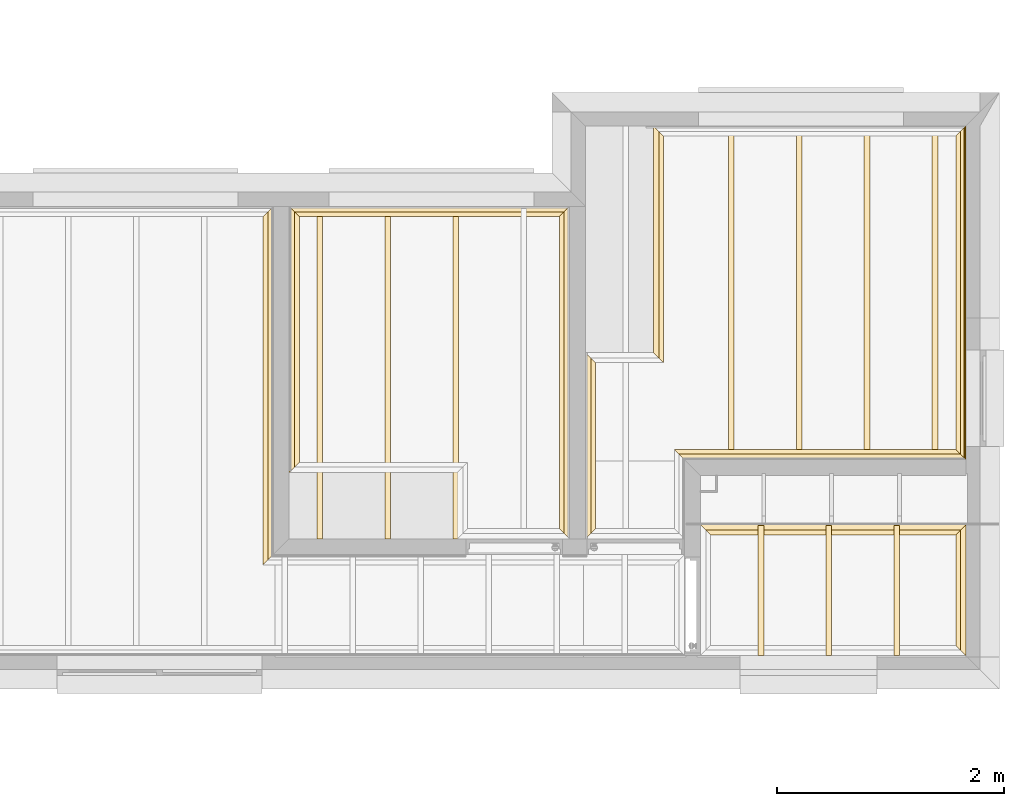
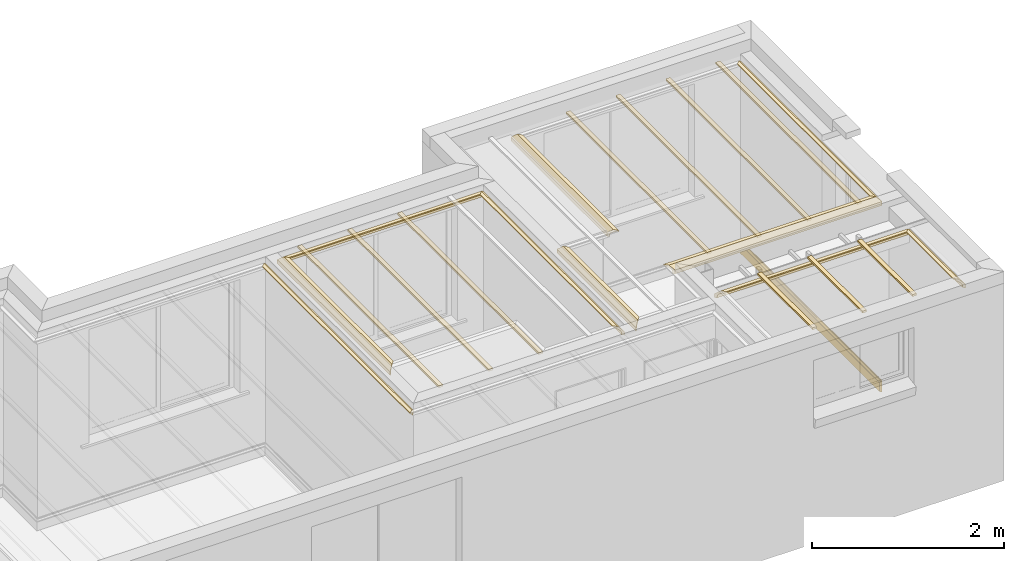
# One storey, part 12 of 15: 14 coverings.
"""IFC2X3 building model written with IfcOpenShell, lengths in millimetres."""

from ifc_helpers import new_model, entity, si_unit, converted_unit, money_unit, direction, frame, origin_with_axes, place, context, subcontext, project, spatial, faceted_brep, source, transform, mapped, material, type_object, element, save


model = new_model("IFC2X3")

# Units and contexts
model_context = context("Model", 3, precision=1e-05, world=origin_with_axes(), true_north=direction((0.0, 1.0)))
body_context = subcontext(model_context, "Body", "Model", "MODEL_VIEW")
ifc_project = project(units=[si_unit("LENGTHUNIT", "METRE", prefix="MILLI"), si_unit("AREAUNIT", "SQUARE_METRE"), si_unit("VOLUMEUNIT", "CUBIC_METRE"), converted_unit("PLANEANGLEUNIT", "DEGREE", entity("IfcPlaneAngleMeasure", 0.0174532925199), si_unit("PLANEANGLEUNIT", "RADIAN"), dimensions=[0, 0, 0, 0, 0, 0, 0]), si_unit("SOLIDANGLEUNIT", "STERADIAN"), money_unit("AUD"), si_unit("TIMEUNIT", "SECOND"), si_unit("MASSUNIT", "GRAM"), si_unit("THERMODYNAMICTEMPERATUREUNIT", "DEGREE_CELSIUS"), si_unit("LUMINOUSINTENSITYUNIT", "LUMEN")], contexts=[model_context])

# Site, building, storey
site_placement = place(None, origin_with_axes())
site = spatial("IfcSite", under=ifc_project, at=site_placement, Name="Lot 1. East Hills", CompositionType="ELEMENT")
building_placement = place(site_placement, origin_with_axes())
building = spatial("IfcBuilding", under=site, at=building_placement, Name="Proposed Units 7 & 8", CompositionType="ELEMENT")
storey_placement = place(building_placement, frame((0.0, 0.0, 3202.0), z_axis=(0.0, 0.0, 1.0), x_axis=(1.0, 0.0, 0.0)))
storey = spatial("IfcBuildingStorey", under=building, at=storey_placement, Name="Ground", CompositionType="ELEMENT", Elevation=3202.0)

# Coverings
ifc_material = material(Name="50 %")
covering_type_1 = type_object("IfcCoveringType", Name="CEILING BATTEN", PredefinedType="NOTDEFINED")
shared_shape_1 = source(origin_with_axes(), body_context, "Body", "Brep", [
    faceted_brep([(0.0, 0.0, 0.0), (0.0, 0.0, 25.0), (-2935.00000134, 0.0, 25.0), (-2935.00000134, 0.0, 0.0), (0.0, 50.0, 0.0), (0.0, 50.0, 25.0), (-2935.00000134, 50.0, 25.0), (-2935.00000134, 50.0, 0.0)], [[[0, 1, 2, 3]], [[4, 5, 1, 0]], [[1, 5, 6, 2]], [[3, 2, 6, 7]], [[0, 3, 7, 4]], [[7, 6, 5, 4]]]),
    faceted_brep([(0.0, 600.0, 0.0), (0.0, 600.0, 25.0), (-2935.00000134, 600.0, 25.0), (-2935.00000134, 600.0, 0.0), (0.0, 650.0, 0.0), (0.0, 650.0, 25.0), (-2935.00000134, 650.0, 25.0), (-2935.00000134, 650.0, 0.0)], [[[0, 1, 2, 3]], [[4, 5, 1, 0]], [[1, 5, 6, 2]], [[3, 2, 6, 7]], [[0, 3, 7, 4]], [[7, 6, 5, 4]]]),
    faceted_brep([(0.0, 1200.0, 0.0), (0.0, 1200.0, 25.0), (-2935.00000134, 1200.0, 25.0), (-2935.00000134, 1200.0, 0.0), (0.0, 1250.0, 0.0), (0.0, 1250.0, 25.0), (-2935.00000134, 1250.0, 25.0), (-2935.00000134, 1250.0, 0.0)], [[[0, 1, 2, 3]], [[4, 5, 1, 0]], [[1, 5, 6, 2]], [[3, 2, 6, 7]], [[0, 3, 7, 4]], [[7, 6, 5, 4]]]),
])
covering_1_placement = place(storey_placement, frame((11056.4701329, 4258.00000119, 2482.0), z_axis=(0.0, 0.0, 1.0), x_axis=(0.0, 1.0, 0.0)))
element("IfcCovering", 1, at=covering_1_placement, inside=storey, type_object=covering_type_1, material=ifc_material, Name="CEL-WALL-G07 - CEILING BATTEN - object -", PredefinedType="CEILING", context=body_context, shape_type="MappedRepresentation", body=[
    mapped(shared_shape_1, transform((0.0, 0.0, 0.0))),
])
shared_shape_2 = source(origin_with_axes(), body_context, "Body", "Brep", [
    faceted_brep([(0.0, 0.0, 0.0), (0.0, 0.0, 25.0), (-2945.00000246, 0.0, 25.0), (-2945.00000246, 0.0, 0.0), (0.0, 50.0, 0.0), (0.0, 50.0, 25.0), (-2945.00000246, 50.0, 25.0), (-2945.00000246, 50.0, 0.0)], [[[0, 1, 2, 3]], [[4, 5, 1, 0]], [[1, 5, 6, 2]], [[3, 2, 6, 7]], [[0, 3, 7, 4]], [[7, 6, 5, 4]]]),
    faceted_brep([(0.0, 600.0, 0.0), (0.0, 600.0, 25.0), (-2945.00000246, 600.0, 25.0), (-2945.00000246, 600.0, 0.0), (0.0, 650.0, 0.0), (0.0, 650.0, 25.0), (-2945.00000246, 650.0, 25.0), (-2945.00000246, 650.0, 0.0)], [[[0, 1, 2, 3]], [[4, 5, 1, 0]], [[1, 5, 6, 2]], [[3, 2, 6, 7]], [[0, 3, 7, 4]], [[7, 6, 5, 4]]]),
    faceted_brep([(0.0, 1200.0, 0.0), (0.0, 1200.0, 25.0), (-2945.00000246, 1200.0, 25.0), (-2945.00000246, 1200.0, 0.0), (0.0, 1250.0, 0.0), (0.0, 1250.0, 25.0), (-2945.00000246, 1250.0, 25.0), (-2945.00000246, 1250.0, 0.0)], [[[0, 1, 2, 3]], [[4, 5, 1, 0]], [[1, 5, 6, 2]], [[3, 2, 6, 7]], [[0, 3, 7, 4]], [[7, 6, 5, 4]]]),
    faceted_brep([(0.0, 1800.0, 0.0), (0.0, 1800.0, 25.0), (-2945.00000246, 1800.0, 25.0), (-2945.00000246, 1800.0, 0.0), (0.0, 1850.0, 0.0), (0.0, 1850.0, 25.0), (-2945.00000246, 1850.0, 25.0), (-2945.00000246, 1850.0, 0.0)], [[[0, 1, 2, 3]], [[4, 5, 1, 0]], [[1, 5, 6, 2]], [[3, 2, 6, 7]], [[0, 3, 7, 4]], [[7, 6, 5, 4]]]),
])
covering_2_placement = place(storey_placement, frame((15286.8495404, 4968.00000119, 2482.0), z_axis=(0.0, 0.0, 1.0), x_axis=(0.0, 1.0, 0.0)))
element("IfcCovering", 2, at=covering_2_placement, inside=storey, type_object=covering_type_1, material=ifc_material, Name="CEL-WALL-G01 - CEILING BATTEN - object -", PredefinedType="CEILING", context=body_context, shape_type="MappedRepresentation", body=[
    mapped(shared_shape_2, transform((0.0, 0.0, 0.0))),
])
covering_type_2 = type_object("IfcCoveringType", Name="Molding Straight 12", PredefinedType="NOTDEFINED")
shared_shape_3 = source(origin_with_axes(), body_context, "Body", "Brep", [
    faceted_brep([(-2000.0, 0.0, -97.7142857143), (0.0, 0.0, -97.7142857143), (-20.5714285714, -20.5714285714, -97.7142857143), (-2020.57142857, -20.5714285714, -97.7142857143), (-2000.0, 0.0, -48.8571428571), (0.0, 0.0, -48.8571428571), (-48.8571428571, -48.8571428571, 0.0), (-90.0, -90.0, 0.0), (-90.0, -90.0, -12.8571428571), (-74.5714285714, -74.5714285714, -12.8571428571), (-74.5714285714, -74.5714285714, -25.7142857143), (-60.5952001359, -60.5952001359, -27.5542910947), (-47.5714285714, -47.5714285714, -32.9489139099), (-36.3876623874, -36.3876623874, -41.5305195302), (-27.8060567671, -27.8060567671, -52.7142857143), (-22.4114339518, -22.4114339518, -65.7380572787), (-20.5714285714, -20.5714285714, -79.7142857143), (-2020.57142857, -20.5714285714, -79.7142857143), (-2022.41143395, -22.4114339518, -65.7380572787), (-2027.80605677, -27.8060567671, -52.7142857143), (-2036.38766239, -36.3876623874, -41.5305195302), (-2047.57142857, -47.5714285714, -32.9489139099), (-2060.59520014, -60.5952001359, -27.5542910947), (-2074.57142857, -74.5714285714, -25.7142857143), (-2074.57142857, -74.5714285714, -12.8571428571), (-2090.0, -90.0, -12.8571428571), (-2090.0, -90.0, 0.0), (-2048.85714286, -48.8571428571, 0.0)], [[[0, 1, 2, 3]], [[4, 5, 1, 0]], [[1, 5, 6, 7, 8, 9, 10, 11, 12, 13, 14, 15, 16, 2]], [[3, 2, 16, 17]], [[0, 3, 17, 18, 19, 20, 21, 22, 23, 24, 25, 26, 27, 4]], [[27, 6, 5, 4]], [[26, 7, 6, 27]], [[25, 8, 7, 26]], [[24, 9, 8, 25]], [[23, 10, 9, 24]], [[22, 11, 10, 23]], [[21, 12, 11, 22]], [[20, 13, 12, 21]], [[19, 14, 13, 20]], [[18, 15, 14, 19]], [[17, 16, 15, 18]]]),
])
covering_3_placement = place(storey_placement, frame((12775.6569845, 4968.00000119, 2469.0), z_axis=(0.0, 0.0, 1.0), x_axis=(0.0, 1.0, 0.0)))
element("IfcCovering", 3, at=covering_3_placement, inside=storey, type_object=covering_type_2, material=ifc_material, Name="CEL-MOD-G26 - Molding Straight 12 - object -", PredefinedType="NOTDEFINED", context=body_context, shape_type="MappedRepresentation", body=[
    mapped(shared_shape_3, transform((0.0, 0.0, 0.0))),
])
shared_shape_4 = source(origin_with_axes(), body_context, "Body", "Brep", [
    faceted_brep([(2935.00000134, 0.0, -97.7142857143), (2914.42857277, -20.5714285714, -97.7142857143), (20.5714285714, -20.5714285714, -97.7142857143), (0.0, 0.0, -97.7142857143), (2935.00000134, 0.0, -48.8571428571), (2886.14285848, -48.8571428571, 0.0), (2845.00000134, -90.0, 0.0), (2845.00000134, -90.0, -12.8571428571), (2860.42857277, -74.5714285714, -12.8571428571), (2860.42857277, -74.5714285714, -25.7142857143), (2874.40480121, -60.5952001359, -27.5542910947), (2887.42857277, -47.5714285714, -32.9489139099), (2898.61233895, -36.3876623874, -41.5305195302), (2907.19394457, -27.8060567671, -52.7142857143), (2912.58856739, -22.4114339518, -65.7380572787), (2914.42857277, -20.5714285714, -79.7142857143), (20.5714285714, -20.5714285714, -79.7142857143), (22.4114339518, -22.4114339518, -65.7380572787), (27.8060567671, -27.8060567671, -52.7142857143), (36.3876623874, -36.3876623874, -41.5305195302), (47.5714285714, -47.5714285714, -32.9489139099), (60.5952001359, -60.5952001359, -27.5542910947), (74.5714285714, -74.5714285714, -25.7142857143), (74.5714285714, -74.5714285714, -12.8571428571), (90.0, -90.0, -12.8571428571), (90.0, -90.0, 0.0), (48.8571428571, -48.8571428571, 0.0), (0.0, 0.0, -48.8571428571)], [[[0, 1, 2, 3]], [[0, 4, 5, 6, 7, 8, 9, 10, 11, 12, 13, 14, 15, 1]], [[1, 15, 16, 2]], [[3, 2, 16, 17, 18, 19, 20, 21, 22, 23, 24, 25, 26, 27]], [[4, 0, 3, 27]], [[5, 4, 27, 26]], [[6, 5, 26, 25]], [[7, 6, 25, 24]], [[8, 7, 24, 23]], [[9, 8, 23, 22]], [[10, 9, 22, 21]], [[11, 10, 21, 20]], [[12, 11, 20, 19]], [[13, 12, 19, 18]], [[14, 13, 18, 17]], [[15, 14, 17, 16]]]),
])
covering_4_placement = place(storey_placement, frame((12035.0000001, 4258.00000119, 2469.0), z_axis=(0.0, 0.0, 1.0), x_axis=(0.0, -1.0, 0.0)))
element("IfcCovering", 4, at=covering_4_placement, inside=storey, type_object=covering_type_2, material=ifc_material, Name="CEL-MOD-G24 - Molding Straight 12 - object -", PredefinedType="NOTDEFINED", context=body_context, shape_type="MappedRepresentation", body=[
    mapped(shared_shape_4, transform((0.0, 0.0, 0.0))),
])
shared_shape_5 = source(origin_with_axes(), body_context, "Body", "Brep", [
    faceted_brep([(-2475.00000112, 0.0, -97.7142857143), (0.0, 0.0, -97.7142857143), (-20.5714285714, -20.5714285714, -97.7142857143), (-2454.42857255, -20.5714285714, -97.7142857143), (-2475.00000112, 0.0, -48.8571428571), (0.0, 0.0, -48.8571428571), (-48.8571428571, -48.8571428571, 0.0), (-90.0, -90.0, 0.0), (-90.0, -90.0, -12.8571428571), (-74.5714285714, -74.5714285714, -12.8571428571), (-74.5714285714, -74.5714285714, -25.7142857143), (-60.5952001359, -60.5952001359, -27.5542910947), (-47.5714285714, -47.5714285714, -32.9489139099), (-36.3876623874, -36.3876623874, -41.5305195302), (-27.8060567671, -27.8060567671, -52.7142857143), (-22.4114339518, -22.4114339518, -65.7380572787), (-20.5714285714, -20.5714285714, -79.7142857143), (-2454.42857255, -20.5714285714, -79.7142857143), (-2452.58856717, -22.4114339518, -65.7380572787), (-2447.19394435, -27.8060567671, -52.7142857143), (-2438.61233873, -36.3876623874, -41.5305195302), (-2427.42857255, -47.5714285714, -32.9489139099), (-2414.40480098, -60.5952001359, -27.5542910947), (-2400.42857255, -74.5714285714, -25.7142857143), (-2400.42857255, -74.5714285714, -12.8571428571), (-2385.00000112, -90.0, -12.8571428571), (-2385.00000112, -90.0, 0.0), (-2426.14285826, -48.8571428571, 0.0)], [[[0, 1, 2, 3]], [[4, 5, 1, 0]], [[1, 5, 6, 7, 8, 9, 10, 11, 12, 13, 14, 15, 16, 2]], [[3, 2, 16, 17]], [[0, 3, 17, 18, 19, 20, 21, 22, 23, 24, 25, 26, 27, 4]], [[27, 6, 5, 4]], [[26, 7, 6, 27]], [[25, 8, 7, 26]], [[24, 9, 8, 25]], [[23, 10, 9, 24]], [[22, 11, 10, 23]], [[21, 12, 11, 22]], [[20, 13, 12, 21]], [[19, 14, 13, 20]], [[18, 15, 14, 19]], [[17, 16, 15, 18]]]),
])
covering_5_placement = place(storey_placement, frame((12035.0000001, 4258.00000119, 2469.0), z_axis=(0.0, 0.0, 1.0), x_axis=(1.0, 0.0, 0.0)))
element("IfcCovering", 5, at=covering_5_placement, inside=storey, type_object=covering_type_2, material=ifc_material, Name="CEL-MOD-G22 - Molding Straight 12 - object -", PredefinedType="NOTDEFINED", context=body_context, shape_type="MappedRepresentation", body=[
    mapped(shared_shape_5, transform((0.0, 0.0, 0.0))),
])
shared_shape_6 = source(origin_with_axes(), body_context, "Body", "Brep", [
    faceted_brep([(1154.99948048, 0.0, -97.7142857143), (1134.42805191, -20.5714285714, -97.7142857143), (20.5714285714, -20.5714285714, -97.7142857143), (0.0, 0.0, -97.7142857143), (1154.99948048, 0.0, -48.8571428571), (1106.14233763, -48.8571428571, 0.0), (1064.99948048, -90.0, 0.0), (1064.99948048, -90.0, -12.8571428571), (1080.42805191, -74.5714285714, -12.8571428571), (1080.42805191, -74.5714285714, -25.7142857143), (1094.40428035, -60.5952001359, -27.5542910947), (1107.42805191, -47.5714285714, -32.9489139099), (1118.6118181, -36.3876623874, -41.5305195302), (1127.19342372, -27.8060567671, -52.7142857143), (1132.58804653, -22.4114339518, -65.7380572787), (1134.42805191, -20.5714285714, -79.7142857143), (20.5714285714, -20.5714285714, -79.7142857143), (22.4114339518, -22.4114339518, -65.7380572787), (27.8060567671, -27.8060567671, -52.7142857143), (36.3876623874, -36.3876623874, -41.5305195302), (47.5714285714, -47.5714285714, -32.9489139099), (60.5952001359, -60.5952001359, -27.5542910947), (74.5714285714, -74.5714285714, -25.7142857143), (74.5714285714, -74.5714285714, -12.8571428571), (90.0, -90.0, -12.8571428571), (90.0, -90.0, 0.0), (48.8571428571, -48.8571428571, 0.0), (0.0, 0.0, -48.8571428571)], [[[0, 1, 2, 3]], [[0, 4, 5, 6, 7, 8, 9, 10, 11, 12, 13, 14, 15, 1]], [[1, 15, 16, 2]], [[3, 2, 16, 17, 18, 19, 20, 21, 22, 23, 24, 25, 26, 27]], [[4, 0, 3, 27]], [[5, 4, 27, 26]], [[6, 5, 26, 25]], [[7, 6, 25, 24]], [[8, 7, 24, 23]], [[9, 8, 23, 22]], [[10, 9, 22, 21]], [[11, 10, 21, 20]], [[12, 11, 20, 19]], [[13, 12, 19, 18]], [[14, 13, 18, 17]], [[15, 14, 17, 16]]]),
])
covering_6_placement = place(storey_placement, frame((15535.0000012, 1447.99947929, 2469.0), z_axis=(0.0, 0.0, 1.0), x_axis=(0.0, -1.0, 0.0)))
element("IfcCovering", 6, at=covering_6_placement, inside=storey, type_object=covering_type_2, material=ifc_material, Name="CEL-MOD-G21 - Molding Straight 12 - object -", PredefinedType="NOTDEFINED", context=body_context, shape_type="MappedRepresentation", body=[
    mapped(shared_shape_6, transform((0.0, 0.0, 0.0))),
])
shared_shape_7 = source(origin_with_axes(), body_context, "Body", "Brep", [
    faceted_brep([(-2344.99999999, 0.0, -97.7142857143), (0.0, 0.0, -97.7142857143), (-20.5714285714, -20.5714285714, -97.7142857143), (-2324.42857142, -20.5714285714, -97.7142857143), (-2344.99999999, 0.0, -48.8571428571), (0.0, 0.0, -48.8571428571), (-48.8571428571, -48.8571428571, 0.0), (-90.0, -90.0, 0.0), (-90.0, -90.0, -12.8571428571), (-74.5714285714, -74.5714285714, -12.8571428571), (-74.5714285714, -74.5714285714, -25.7142857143), (-60.5952001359, -60.5952001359, -27.5542910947), (-47.5714285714, -47.5714285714, -32.9489139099), (-36.3876623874, -36.3876623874, -41.5305195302), (-27.8060567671, -27.8060567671, -52.7142857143), (-22.4114339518, -22.4114339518, -65.7380572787), (-20.5714285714, -20.5714285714, -79.7142857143), (-2324.42857142, -20.5714285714, -79.7142857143), (-2322.58856604, -22.4114339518, -65.7380572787), (-2317.19394323, -27.8060567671, -52.7142857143), (-2308.61233761, -36.3876623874, -41.5305195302), (-2297.42857142, -47.5714285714, -32.9489139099), (-2284.40479986, -60.5952001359, -27.5542910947), (-2270.42857142, -74.5714285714, -25.7142857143), (-2270.42857142, -74.5714285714, -12.8571428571), (-2254.99999999, -90.0, -12.8571428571), (-2254.99999999, -90.0, 0.0), (-2296.14285714, -48.8571428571, 0.0)], [[[0, 1, 2, 3]], [[4, 5, 1, 0]], [[1, 5, 6, 7, 8, 9, 10, 11, 12, 13, 14, 15, 16, 2]], [[3, 2, 16, 17]], [[0, 3, 17, 18, 19, 20, 21, 22, 23, 24, 25, 26, 27, 4]], [[27, 6, 5, 4]], [[26, 7, 6, 27]], [[25, 8, 7, 26]], [[24, 9, 8, 25]], [[23, 10, 9, 24]], [[22, 11, 10, 23]], [[21, 12, 11, 22]], [[20, 13, 12, 21]], [[19, 14, 13, 20]], [[18, 15, 14, 19]], [[17, 16, 15, 18]]]),
])
covering_7_placement = place(storey_placement, frame((15535.0000012, 1447.99947929, 2469.0), z_axis=(0.0, 0.0, 1.0), x_axis=(1.0, 0.0, 0.0)))
element("IfcCovering", 7, at=covering_7_placement, inside=storey, type_object=covering_type_2, material=ifc_material, Name="CEL-MOD-G19 - Molding Straight 12 - object -", PredefinedType="NOTDEFINED", context=body_context, shape_type="MappedRepresentation", body=[
    mapped(shared_shape_7, transform((0.0, 0.0, 0.0))),
])
shared_shape_8 = source(origin_with_axes(), body_context, "Body", "Brep", [
    faceted_brep([(-2349.34301628, 0.0, -97.7142857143), (0.0, 0.0, -97.7142857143), (-20.5714285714, -20.5714285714, -97.7142857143), (-2328.77158771, -20.5714285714, -97.7142857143), (-2349.34301628, 0.0, -48.8571428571), (0.0, 0.0, -48.8571428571), (-48.8571428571, -48.8571428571, 0.0), (-90.0, -90.0, 0.0), (-90.0, -90.0, -12.8571428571), (-74.5714285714, -74.5714285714, -12.8571428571), (-74.5714285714, -74.5714285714, -25.7142857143), (-60.5952001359, -60.5952001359, -27.5542910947), (-47.5714285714, -47.5714285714, -32.9489139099), (-36.3876623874, -36.3876623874, -41.5305195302), (-27.8060567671, -27.8060567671, -52.7142857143), (-22.4114339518, -22.4114339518, -65.7380572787), (-20.5714285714, -20.5714285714, -79.7142857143), (-2328.77158771, -20.5714285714, -79.7142857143), (-2326.93158233, -22.4114339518, -65.7380572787), (-2321.53695951, -27.8060567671, -52.7142857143), (-2312.95535389, -36.3876623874, -41.5305195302), (-2301.77158771, -47.5714285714, -32.9489139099), (-2288.74781615, -60.5952001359, -27.5542910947), (-2274.77158771, -74.5714285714, -25.7142857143), (-2274.77158771, -74.5714285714, -12.8571428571), (-2259.34301628, -90.0, -12.8571428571), (-2259.34301628, -90.0, 0.0), (-2300.48587342, -48.8571428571, 0.0)], [[[0, 1, 2, 3]], [[4, 5, 1, 0]], [[1, 5, 6, 7, 8, 9, 10, 11, 12, 13, 14, 15, 16, 2]], [[3, 2, 16, 17]], [[0, 3, 17, 18, 19, 20, 21, 22, 23, 24, 25, 26, 27, 4]], [[27, 6, 5, 4]], [[26, 7, 6, 27]], [[25, 8, 7, 26]], [[24, 9, 8, 25]], [[23, 10, 9, 24]], [[22, 11, 10, 23]], [[21, 12, 11, 22]], [[20, 13, 12, 21]], [[19, 14, 13, 20]], [[18, 15, 14, 19]], [[17, 16, 15, 18]]]),
])
covering_8_placement = place(storey_placement, frame((9559.99999896, 4258.00000119, 2469.0), z_axis=(0.0, 0.0, 1.0), x_axis=(0.0, 1.0, 0.0)))
element("IfcCovering", 8, at=covering_8_placement, inside=storey, type_object=covering_type_2, material=ifc_material, Name="CEL-MOD-G18 - Molding Straight 12 - object -", PredefinedType="NOTDEFINED", context=body_context, shape_type="MappedRepresentation", body=[
    mapped(shared_shape_8, transform((0.0, 0.0, 0.0))),
])
shared_shape_9 = source(origin_with_axes(), body_context, "Body", "Brep", [
    faceted_brep([(3075.00000075, 0.0, -97.7142857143), (3095.57142932, -20.5714285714, -97.7142857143), (20.5714285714, -20.5714285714, -97.7142857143), (0.0, 0.0, -97.7142857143), (3075.00000075, 0.0, -48.8571428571), (3123.8571436, -48.8571428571, 0.0), (3165.00000075, -90.0, 0.0), (3165.00000075, -90.0, -12.8571428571), (3149.57142932, -74.5714285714, -12.8571428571), (3149.57142932, -74.5714285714, -25.7142857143), (3135.59520088, -60.5952001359, -27.5542910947), (3122.57142932, -47.5714285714, -32.9489139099), (3111.38766313, -36.3876623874, -41.5305195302), (3102.80605751, -27.8060567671, -52.7142857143), (3097.4114347, -22.4114339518, -65.7380572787), (3095.57142932, -20.5714285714, -79.7142857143), (20.5714285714, -20.5714285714, -79.7142857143), (22.4114339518, -22.4114339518, -65.7380572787), (27.8060567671, -27.8060567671, -52.7142857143), (36.3876623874, -36.3876623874, -41.5305195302), (47.5714285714, -47.5714285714, -32.9489139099), (60.5952001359, -60.5952001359, -27.5542910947), (74.5714285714, -74.5714285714, -25.7142857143), (74.5714285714, -74.5714285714, -12.8571428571), (90.0, -90.0, -12.8571428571), (90.0, -90.0, 0.0), (48.8571428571, -48.8571428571, 0.0), (0.0, 0.0, -48.8571428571)], [[[0, 1, 2, 3]], [[0, 4, 5, 6, 7, 8, 9, 10, 11, 12, 13, 14, 15, 1]], [[1, 15, 16, 2]], [[3, 2, 16, 17, 18, 19, 20, 21, 22, 23, 24, 25, 26, 27]], [[4, 0, 3, 27]], [[5, 4, 27, 26]], [[6, 5, 26, 25]], [[7, 6, 25, 24]], [[8, 7, 24, 23]], [[9, 8, 23, 22]], [[10, 9, 22, 21]], [[11, 10, 21, 20]], [[12, 11, 20, 19]], [[13, 12, 19, 18]], [[14, 13, 18, 17]], [[15, 14, 17, 16]]]),
])
covering_9_placement = place(storey_placement, frame((9419.99999955, 4258.00000119, 2469.0), z_axis=(0.0, 0.0, 1.0), x_axis=(0.0, -1.0, 0.0)))
element("IfcCovering", 9, at=covering_9_placement, inside=storey, type_object=covering_type_2, material=ifc_material, Name="U2_HANDBASIN - Molding Straight 12 - object -", PredefinedType="NOTDEFINED", context=body_context, shape_type="MappedRepresentation", body=[
    mapped(shared_shape_9, transform((0.0, 0.0, 0.0))),
])
shared_shape_10 = source(origin_with_axes(), body_context, "Body", "Brep", [
    faceted_brep([(2945.00000246, 0.0, -97.7142857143), (2924.42857389, -20.5714285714, -97.7142857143), (20.5714285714, -20.5714285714, -97.7142857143), (0.0, 0.0, -97.7142857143), (2945.00000246, 0.0, -48.8571428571), (2896.1428596, -48.8571428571, 0.0), (2855.00000246, -90.0, 0.0), (2855.00000246, -90.0, -12.8571428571), (2870.42857389, -74.5714285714, -12.8571428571), (2870.42857389, -74.5714285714, -25.7142857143), (2884.40480232, -60.5952001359, -27.5542910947), (2897.42857389, -47.5714285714, -32.9489139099), (2908.61234007, -36.3876623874, -41.5305195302), (2917.19394569, -27.8060567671, -52.7142857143), (2922.58856851, -22.4114339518, -65.7380572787), (2924.42857389, -20.5714285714, -79.7142857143), (20.5714285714, -20.5714285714, -79.7142857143), (22.4114339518, -22.4114339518, -65.7380572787), (27.8060567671, -27.8060567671, -52.7142857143), (36.3876623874, -36.3876623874, -41.5305195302), (47.5714285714, -47.5714285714, -32.9489139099), (60.5952001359, -60.5952001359, -27.5542910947), (74.5714285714, -74.5714285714, -25.7142857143), (74.5714285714, -74.5714285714, -12.8571428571), (90.0, -90.0, -12.8571428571), (90.0, -90.0, 0.0), (48.8571428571, -48.8571428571, 0.0), (0.0, 0.0, -48.8571428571)], [[[0, 1, 2, 3]], [[0, 4, 5, 6, 7, 8, 9, 10, 11, 12, 13, 14, 15, 1]], [[1, 15, 16, 2]], [[3, 2, 16, 17, 18, 19, 20, 21, 22, 23, 24, 25, 26, 27]], [[4, 0, 3, 27]], [[5, 4, 27, 26]], [[6, 5, 26, 25]], [[7, 6, 25, 24]], [[8, 7, 24, 23]], [[9, 8, 23, 22]], [[10, 9, 22, 21]], [[11, 10, 21, 20]], [[12, 11, 20, 19]], [[13, 12, 19, 18]], [[14, 13, 18, 17]], [[15, 14, 17, 16]]]),
])
covering_10_placement = place(storey_placement, frame((15535.0000012, 4968.00000119, 2469.0), z_axis=(0.0, 0.0, 1.0), x_axis=(0.0, -1.0, 0.0)))
element("IfcCovering", 10, at=covering_10_placement, inside=storey, type_object=covering_type_2, material=ifc_material, Name="CEL-MOD-G06 - Molding Straight 12 - object -", PredefinedType="NOTDEFINED", context=body_context, shape_type="MappedRepresentation", body=[
    mapped(shared_shape_10, transform((0.0, 0.0, 0.0))),
])
shared_shape_11 = source(origin_with_axes(), body_context, "Body", "Brep", [
    faceted_brep([(2485.00000008, 0.0, -97.7142857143), (2505.57142865, -20.5714285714, -97.7142857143), (20.5714285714, -20.5714285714, -97.7142857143), (0.0, 0.0, -97.7142857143), (2485.00000008, 0.0, -48.8571428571), (2533.85714293, -48.8571428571, 0.0), (2575.00000008, -90.0, 0.0), (2575.00000008, -90.0, -12.8571428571), (2559.57142865, -74.5714285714, -12.8571428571), (2559.57142865, -74.5714285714, -25.7142857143), (2545.59520021, -60.5952001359, -27.5542910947), (2532.57142865, -47.5714285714, -32.9489139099), (2521.38766246, -36.3876623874, -41.5305195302), (2512.80605684, -27.8060567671, -52.7142857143), (2507.41143403, -22.4114339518, -65.7380572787), (2505.57142865, -20.5714285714, -79.7142857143), (20.5714285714, -20.5714285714, -79.7142857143), (22.4114339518, -22.4114339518, -65.7380572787), (27.8060567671, -27.8060567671, -52.7142857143), (36.3876623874, -36.3876623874, -41.5305195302), (47.5714285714, -47.5714285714, -32.9489139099), (60.5952001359, -60.5952001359, -27.5542910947), (74.5714285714, -74.5714285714, -25.7142857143), (74.5714285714, -74.5714285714, -12.8571428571), (90.0, -90.0, -12.8571428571), (90.0, -90.0, 0.0), (48.8571428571, -48.8571428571, 0.0), (0.0, 0.0, -48.8571428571)], [[[0, 1, 2, 3]], [[0, 4, 5, 6, 7, 8, 9, 10, 11, 12, 13, 14, 15, 1]], [[1, 15, 16, 2]], [[3, 2, 16, 17, 18, 19, 20, 21, 22, 23, 24, 25, 26, 27]], [[4, 0, 3, 27]], [[5, 4, 27, 26]], [[6, 5, 26, 25]], [[7, 6, 25, 24]], [[8, 7, 24, 23]], [[9, 8, 23, 22]], [[10, 9, 22, 21]], [[11, 10, 21, 20]], [[12, 11, 20, 19]], [[13, 12, 19, 18]], [[14, 13, 18, 17]], [[15, 14, 17, 16]]]),
])
covering_11_placement = place(storey_placement, frame((15535.0000007, 2022.99999873, 2469.0), z_axis=(0.0, 0.0, 1.0), x_axis=(-1.0, 0.0, 0.0)))
element("IfcCovering", 11, at=covering_11_placement, inside=storey, type_object=covering_type_2, material=ifc_material, Name="CEL-MOD-G05 - Molding Straight 12 - object -", PredefinedType="NOTDEFINED", context=body_context, shape_type="MappedRepresentation", body=[
    mapped(shared_shape_11, transform((0.0, 0.0, 0.0))),
])
shared_shape_12 = source(origin_with_axes(), body_context, "Body", "Brep", [
    faceted_brep([(-1645.00000134, 0.0, -97.7142857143), (0.0, 0.0, -97.7142857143), (-20.5714285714, -20.5714285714, -97.7142857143), (-1624.42857277, -20.5714285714, -97.7142857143), (-1645.00000134, 0.0, -48.8571428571), (0.0, 0.0, -48.8571428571), (-48.8571428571, -48.8571428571, 0.0), (-90.0, -90.0, 0.0), (-90.0, -90.0, -12.8571428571), (-74.5714285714, -74.5714285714, -12.8571428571), (-74.5714285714, -74.5714285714, -25.7142857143), (-60.5952001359, -60.5952001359, -27.5542910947), (-47.5714285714, -47.5714285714, -32.9489139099), (-36.3876623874, -36.3876623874, -41.5305195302), (-27.8060567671, -27.8060567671, -52.7142857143), (-22.4114339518, -22.4114339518, -65.7380572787), (-20.5714285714, -20.5714285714, -79.7142857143), (-1624.42857277, -20.5714285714, -79.7142857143), (-1622.58856739, -22.4114339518, -65.7380572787), (-1617.19394457, -27.8060567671, -52.7142857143), (-1608.61233895, -36.3876623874, -41.5305195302), (-1597.42857277, -47.5714285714, -32.9489139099), (-1584.40480121, -60.5952001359, -27.5542910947), (-1570.42857277, -74.5714285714, -25.7142857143), (-1570.42857277, -74.5714285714, -12.8571428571), (-1555.00000134, -90.0, -12.8571428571), (-1555.00000134, -90.0, 0.0), (-1596.14285848, -48.8571428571, 0.0)], [[[0, 1, 2, 3]], [[4, 5, 1, 0]], [[1, 5, 6, 7, 8, 9, 10, 11, 12, 13, 14, 15, 16, 2]], [[3, 2, 16, 17]], [[0, 3, 17, 18, 19, 20, 21, 22, 23, 24, 25, 26, 27, 4]], [[27, 6, 5, 4]], [[26, 7, 6, 27]], [[25, 8, 7, 26]], [[24, 9, 8, 25]], [[23, 10, 9, 24]], [[22, 11, 10, 23]], [[21, 12, 11, 22]], [[20, 13, 12, 21]], [[19, 14, 13, 20]], [[18, 15, 14, 19]], [[17, 16, 15, 18]]]),
])
covering_12_placement = place(storey_placement, frame((12174.9999995, 2968.00000119, 2469.0), z_axis=(0.0, 0.0, 1.0), x_axis=(0.0, 1.0, 0.0)))
element("IfcCovering", 12, at=covering_12_placement, inside=storey, type_object=covering_type_2, material=ifc_material, Name="U2_HANDBASIN - Molding Straight 12 - object -", PredefinedType="NOTDEFINED", context=body_context, shape_type="MappedRepresentation", body=[
    mapped(shared_shape_12, transform((0.0, 0.0, 0.0))),
])
shared_shape_13 = source(origin_with_axes(), body_context, "Body", "Brep", [
    faceted_brep([(0.0, 0.0, 0.0), (0.0, 0.0, 25.0), (-1145.28934589, 0.0, 25.0), (-1145.28934589, 0.0, 0.0), (0.0, 50.0, 0.0), (0.0, 50.0, 25.0), (-1145.28934589, 50.0, 25.0), (-1145.28934589, 50.0, 0.0)], [[[0, 1, 2, 3]], [[4, 5, 1, 0]], [[1, 5, 6, 2]], [[3, 2, 6, 7]], [[0, 3, 7, 4]], [[7, 6, 5, 4]]]),
    faceted_brep([(0.0, 600.0, 0.0), (0.0, 600.0, 25.0), (-1145.28934589, 600.0, 25.0), (-1145.28934589, 600.0, 0.0), (0.0, 650.0, 0.0), (0.0, 650.0, 25.0), (-1145.28934589, 650.0, 25.0), (-1145.28934589, 650.0, 0.0)], [[[0, 1, 2, 3]], [[4, 5, 1, 0]], [[1, 5, 6, 2]], [[3, 2, 6, 7]], [[0, 3, 7, 4]], [[7, 6, 5, 4]]]),
    faceted_brep([(0.0, 1200.0, 0.0), (0.0, 1200.0, 25.0), (-1145.28934589, 1200.0, 25.0), (-1145.28934589, 1200.0, 0.0), (0.0, 1250.0, 0.0), (0.0, 1250.0, 25.0), (-1145.28934589, 1250.0, 25.0), (-1145.28934589, 1250.0, 0.0)], [[[0, 1, 2, 3]], [[4, 5, 1, 0]], [[1, 5, 6, 2]], [[3, 2, 6, 7]], [[0, 3, 7, 4]], [[7, 6, 5, 4]]]),
])
covering_13_placement = place(storey_placement, frame((14950.0000007, 1438.2893447, 2482.0), z_axis=(0.0, 0.0, 1.0), x_axis=(0.0, 1.0, 0.0)))
element("IfcCovering", 13, at=covering_13_placement, inside=storey, type_object=covering_type_1, material=ifc_material, Name="CEL-BAT-GR05 - CEILING BATTEN - object -", PredefinedType="CEILING", context=body_context, shape_type="MappedRepresentation", body=[
    mapped(shared_shape_13, transform((0.0, 0.0, 0.0))),
])
shared_shape_14 = source(origin_with_axes(), body_context, "Body", "Brep", [
    faceted_brep([(2925.9059766, -19.0298507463, -150.0), (2925.9059766, -19.0298507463, -40.2985074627), (18.9658913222, -19.0298507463, -40.2985074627), (18.9658913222, -19.0298507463, -150.0), (2945.00000246, 0.0, -150.0), (2945.00000246, 0.0, -120.895522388), (2942.75364647, -2.23880597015, -118.656716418), (2942.75364647, -2.23880597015, -24.6268656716), (2945.00000246, 0.0, -22.3880597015), (2945.00000246, 0.0, 0.0), (2938.26093451, -6.71641791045, 0.0), (2936.01457852, -8.9552238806, -4.4776119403), (2935.77703334, -9.19197067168, -5.17383533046), (2935.73570604, -9.23315907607, -5.90805571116), (2935.89362956, -9.07576633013, -6.62638959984), (2936.23921412, -8.73134328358, -7.27611940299), (2936.80123332, -8.1712130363, -8.36014699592), (2937.02543872, -7.94776119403, -9.55970149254), (2936.72364878, -8.2485368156, -12.6066468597), (2935.61055532, -9.35788915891, -15.4603601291), (2933.76822254, -11.1940298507, -17.9104477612), (2929.32612497, -15.6211975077, -24.0923863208), (2927.02915459, -17.9104477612, -31.3432835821), (2927.01383016, -17.9257206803, -33.6342255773), (2927.64017792, -17.3014780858, -35.8385326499), (2928.8584965, -16.087254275, -37.7812907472), (2930.57211108, -14.3793991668, -39.3083399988), (2932.64504455, -12.3134328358, -40.2985074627), (12.2720473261, -12.3134328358, -40.2985074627), (14.3310699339, -14.3793991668, -39.3083399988), (16.0331849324, -16.087254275, -37.7812907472), (17.2433277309, -17.3014780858, -35.8385326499), (17.865472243, -17.9257206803, -33.6342255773), (17.8502506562, -17.9104477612, -31.3432835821), (15.5686945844, -15.6211975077, -24.0923863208), (11.1564066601, -11.1940298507, -17.9104477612), (9.32643724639, -9.35788915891, -15.4603601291), (8.22081344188, -8.2485368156, -12.6066468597), (7.92104872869, -7.94776119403, -9.55970149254), (8.1437495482, -8.1712130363, -8.36014699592), (8.7019971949, -8.73134328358, -7.27611940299), (9.04526263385, -9.07576633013, -6.62638959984), (9.20212638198, -9.23315907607, -5.90805571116), (9.16107641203, -9.19197067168, -5.17383533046), (8.9251253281, -8.9552238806, -4.4776119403), (6.69384399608, -6.71641791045, 0.0), (0.0, 0.0, 0.0), (0.0, 0.0, -22.3880597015), (2.23128133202, -2.23880597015, -24.6268656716), (2.23128133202, -2.23880597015, -118.656716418), (0.0, 0.0, -120.895522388), (0.0, 0.0, -150.0)], [[[0, 1, 2, 3]], [[0, 4, 5, 6, 7, 8, 9, 10, 11, 12, 13, 14, 15, 16, 17, 18, 19, 20, 21, 22, 23, 24, 25, 26, 27, 1]], [[1, 27, 28, 2]], [[3, 2, 28, 29, 30, 31, 32, 33, 34, 35, 36, 37, 38, 39, 40, 41, 42, 43, 44, 45, 46, 47, 48, 49, 50, 51]], [[4, 0, 3, 51]], [[5, 4, 51, 50]], [[6, 5, 50, 49]], [[7, 6, 49, 48]], [[8, 7, 48, 47]], [[9, 8, 47, 46]], [[10, 9, 46, 45]], [[11, 10, 45, 44]], [[12, 11, 44, 43]], [[13, 12, 43, 42]], [[14, 13, 42, 41]], [[15, 14, 41, 40]], [[16, 15, 40, 39]], [[17, 16, 39, 38]], [[18, 17, 38, 37]], [[19, 18, 37, 36]], [[20, 19, 36, 35]], [[21, 20, 35, 34]], [[22, 21, 34, 33]], [[23, 22, 33, 32]], [[24, 23, 32, 31]], [[25, 24, 31, 30]], [[26, 25, 30, 29]], [[27, 26, 29, 28]]]),
])
covering_14_placement = place(storey_placement, frame((15535.0000012, 4968.00000119, 150.0), z_axis=(0.0, 0.0, 1.0), x_axis=(0.0, -1.0, 0.0)))
element("IfcCovering", 14, at=covering_14_placement, inside=storey, type_object=covering_type_2, material=ifc_material, Name="Sk_01 - Molding Straight 12 - object -", PredefinedType="NOTDEFINED", context=body_context, shape_type="MappedRepresentation", body=[
    mapped(shared_shape_14, transform((0.0, 0.0, 0.0))),
])

save(model, "model.ifc")
